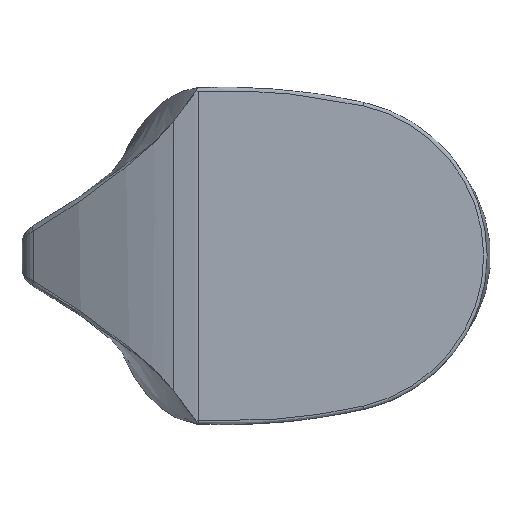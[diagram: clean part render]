
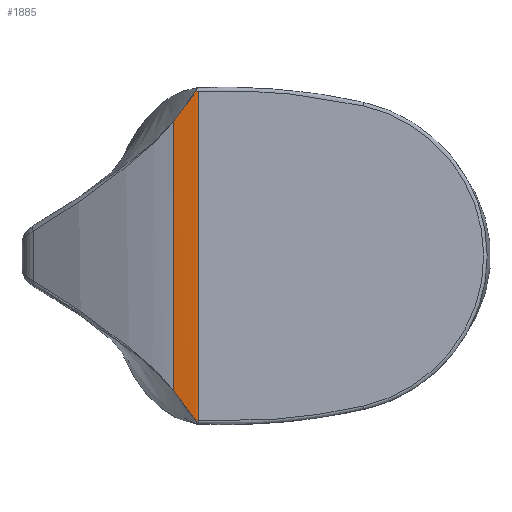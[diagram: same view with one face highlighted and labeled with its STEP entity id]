
A CAD part, front view. The second image highlights one B-rep face of the part: STEP entity #1885.
In plain terms, the highlighted cylindrical face has radius 26.4 mm (diameter 52.8 mm), a partial arc.
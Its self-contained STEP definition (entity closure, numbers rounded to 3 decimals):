
#245 = VECTOR ( 'NONE', #3891, 1000. ) ;
#261 = B_SPLINE_CURVE_WITH_KNOTS ( 'NONE', 3,
 ( #1932, #348, #1373, #328, #3395, #1070, #3463 ),
 .UNSPECIFIED., .F., .F.,
 ( 4, 3, 4 ),
 ( 0., 0., 0.001 ),
 .UNSPECIFIED. ) ;
#295 = CARTESIAN_POINT ( 'NONE',  ( -6.146, 0.702, -39.787 ) ) ;
#321 = VERTEX_POINT ( 'NONE', #1995 ) ;
#328 = CARTESIAN_POINT ( 'NONE',  ( -0.032, 0., 46.911 ) ) ;
#348 = CARTESIAN_POINT ( 'NONE',  ( -0.011, 0., 46.908 ) ) ;
#394 = VERTEX_POINT ( 'NONE', #2287 ) ;
#414 = CARTESIAN_POINT ( 'NONE',  ( -7.2, 1.001, 38.378 ) ) ;
#606 = ORIENTED_EDGE ( 'NONE', *, *, #3132, .T. ) ;
#756 = CARTESIAN_POINT ( 'NONE',  ( 0., 0., -50. ) ) ;
#935 = CYLINDRICAL_SURFACE ( 'NONE', #3321, 26.4 ) ;
#989 = VERTEX_POINT ( 'NONE', #2267 ) ;
#1070 = CARTESIAN_POINT ( 'NONE',  ( -0.475, 0.003, 46.98 ) ) ;
#1086 = EDGE_CURVE ( 'NONE', #3736, #3301, #1329, .T. ) ;
#1126 = CARTESIAN_POINT ( 'NONE',  ( -7.2, 1.001, -38.378 ) ) ;
#1329 = B_SPLINE_CURVE_WITH_KNOTS ( 'NONE', 3,
 ( #2811, #3538, #1729, #2084 ),
 .UNSPECIFIED., .F., .F.,
 ( 4, 4 ),
 ( 0., 0.001 ),
 .UNSPECIFIED. ) ;
#1373 = CARTESIAN_POINT ( 'NONE',  ( -0.021, 0., 46.91 ) ) ;
#1384 = VECTOR ( 'NONE', #1795, 1000. ) ;
#1476 = CARTESIAN_POINT ( 'NONE',  ( -5.051, 0.465, 41.245 ) ) ;
#1482 = CARTESIAN_POINT ( 'NONE',  ( -0.801, 0.012, -46.874 ) ) ;
#1563 = CARTESIAN_POINT ( 'NONE',  ( -1.877, 0.045, -45.451 ) ) ;
#1646 = DIRECTION ( 'NONE',  ( 1., 0., 0. ) ) ;
#1652 = CARTESIAN_POINT ( 'NONE',  ( -2.951, 0.143, -44.03 ) ) ;
#1722 = ORIENTED_EDGE ( 'NONE', *, *, #1086, .T. ) ;
#1729 = CARTESIAN_POINT ( 'NONE',  ( -0.267, 0., -46.896 ) ) ;
#1795 = DIRECTION ( 'NONE',  ( 0., 0., 1. ) ) ;
#1811 = CARTESIAN_POINT ( 'NONE',  ( -0.696, 0.009, 47.013 ) ) ;
#1816 = LINE ( 'NONE', #756, #1384 ) ;
#1859 = EDGE_CURVE ( 'NONE', #321, #1904, #4431, .T. ) ;
#1885 = ADVANCED_FACE ( 'NONE', ( #3641 ), #935, .T. ) ;
#1904 = VERTEX_POINT ( 'NONE', #2661 ) ;
#1932 = CARTESIAN_POINT ( 'NONE',  ( 0., 0., 46.907 ) ) ;
#1995 = CARTESIAN_POINT ( 'NONE',  ( -0.696, 0.009, 47.013 ) ) ;
#2080 = CARTESIAN_POINT ( 'NONE',  ( -1.79, 0.038, 45.567 ) ) ;
#2084 = CARTESIAN_POINT ( 'NONE',  ( 0., 0., -46.907 ) ) ;
#2111 = ORIENTED_EDGE ( 'NONE', *, *, #2226, .T. ) ;
#2165 = CARTESIAN_POINT ( 'NONE',  ( -7.2, 1.001, -50. ) ) ;
#2226 = EDGE_CURVE ( 'NONE', #394, #321, #261, .T. ) ;
#2267 = CARTESIAN_POINT ( 'NONE',  ( -7.2, 1.001, -38.378 ) ) ;
#2287 = CARTESIAN_POINT ( 'NONE',  ( 0., 0., 46.907 ) ) ;
#2301 = CARTESIAN_POINT ( 'NONE',  ( 0., 0., -46.907 ) ) ;
#2537 = LINE ( 'NONE', #2165, #245 ) ;
#2661 = CARTESIAN_POINT ( 'NONE',  ( -7.2, 1.001, 38.378 ) ) ;
#2811 = CARTESIAN_POINT ( 'NONE',  ( -0.801, 0.012, -46.874 ) ) ;
#2874 = B_SPLINE_CURVE_WITH_KNOTS ( 'NONE', 3,
 ( #1126, #295, #3296, #1652, #1563, #3030 ),
 .UNSPECIFIED., .F., .F.,
 ( 4, 2, 4 ),
 ( 0., 0.005, 0.011 ),
 .UNSPECIFIED. ) ;
#2893 = EDGE_CURVE ( 'NONE', #989, #1904, #2537, .T. ) ;
#3012 = ORIENTED_EDGE ( 'NONE', *, *, #3618, .T. ) ;
#3030 = CARTESIAN_POINT ( 'NONE',  ( -0.801, 0.012, -46.874 ) ) ;
#3132 = EDGE_CURVE ( 'NONE', #989, #3736, #2874, .T. ) ;
#3190 = CARTESIAN_POINT ( 'NONE',  ( -2.882, 0.135, 44.123 ) ) ;
#3280 = ORIENTED_EDGE ( 'NONE', *, *, #1859, .T. ) ;
#3296 = CARTESIAN_POINT ( 'NONE',  ( -5.086, 0.472, -41.199 ) ) ;
#3301 = VERTEX_POINT ( 'NONE', #2301 ) ;
#3321 = AXIS2_PLACEMENT_3D ( 'NONE', #3995, #4045, #1646 ) ;
#3395 = CARTESIAN_POINT ( 'NONE',  ( -0.253, 0., 46.946 ) ) ;
#3463 = CARTESIAN_POINT ( 'NONE',  ( -0.696, 0.009, 47.013 ) ) ;
#3477 = CARTESIAN_POINT ( 'NONE',  ( -6.129, 0.697, 39.81 ) ) ;
#3538 = CARTESIAN_POINT ( 'NONE',  ( -0.534, 0.004, -46.885 ) ) ;
#3618 = EDGE_CURVE ( 'NONE', #3301, #394, #1816, .T. ) ;
#3641 = FACE_OUTER_BOUND ( 'NONE', #4076, .T. ) ;
#3736 = VERTEX_POINT ( 'NONE', #1482 ) ;
#3891 = DIRECTION ( 'NONE',  ( 0., 0., 1. ) ) ;
#3995 = CARTESIAN_POINT ( 'NONE',  ( 0., 26.4, -50. ) ) ;
#4045 = DIRECTION ( 'NONE',  ( 0., 0., 1. ) ) ;
#4076 = EDGE_LOOP ( 'NONE', ( #606, #1722, #3012, #2111, #3280, #4125 ) ) ;
#4125 = ORIENTED_EDGE ( 'NONE', *, *, #2893, .F. ) ;
#4431 = B_SPLINE_CURVE_WITH_KNOTS ( 'NONE', 3,
 ( #1811, #2080, #3190, #1476, #3477, #414 ),
 .UNSPECIFIED., .F., .F.,
 ( 4, 2, 4 ),
 ( 0.001, 0.007, 0.012 ),
 .UNSPECIFIED. ) ;
